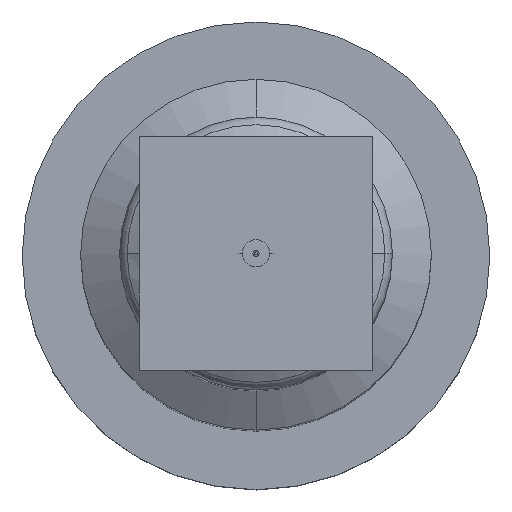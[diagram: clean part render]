
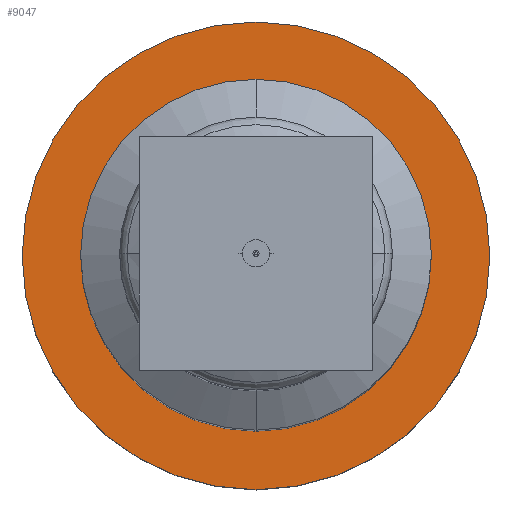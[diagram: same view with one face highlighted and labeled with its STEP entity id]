
A CAD part, top view. The second image highlights one B-rep face of the part: STEP entity #9047.
In plain terms, the highlighted planar face has unit normal (0, 0, 1).
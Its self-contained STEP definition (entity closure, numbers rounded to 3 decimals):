
#391 = DIRECTION ( 'NONE',  ( 0., 0., -1. ) ) ;
#444 = DIRECTION ( 'NONE',  ( 0., 1., 0. ) ) ;
#909 = CARTESIAN_POINT ( 'NONE',  ( 0., 22.5, 35. ) ) ;
#946 = CIRCLE ( 'NONE', #1732, 22.5 ) ;
#952 = FACE_BOUND ( 'NONE', #1189, .T. ) ;
#1189 = EDGE_LOOP ( 'NONE', ( #9592, #12065 ) ) ;
#1372 = FACE_OUTER_BOUND ( 'NONE', #4462, .T. ) ;
#1689 = EDGE_CURVE ( 'NONE', #12061, #3672, #7768, .T. ) ;
#1732 = AXIS2_PLACEMENT_3D ( 'NONE', #13925, #5983, #3143 ) ;
#1782 = DIRECTION ( 'NONE',  ( 0., 0., 1. ) ) ;
#1910 = AXIS2_PLACEMENT_3D ( 'NONE', #8850, #6249, #11389 ) ;
#1992 = DIRECTION ( 'NONE',  ( 0., 0., -1. ) ) ;
#3143 = DIRECTION ( 'NONE',  ( 0., 1., 0. ) ) ;
#3672 = VERTEX_POINT ( 'NONE', #10960 ) ;
#3691 = AXIS2_PLACEMENT_3D ( 'NONE', #8383, #391, #444 ) ;
#4462 = EDGE_LOOP ( 'NONE', ( #9200, #11456 ) ) ;
#5983 = DIRECTION ( 'NONE',  ( 0., 0., -1. ) ) ;
#6020 = EDGE_CURVE ( 'NONE', #10911, #17168, #946, .T. ) ;
#6249 = DIRECTION ( 'NONE',  ( 0., 0., -1. ) ) ;
#7011 = CARTESIAN_POINT ( 'NONE',  ( 0., -22.5, 35. ) ) ;
#7054 = EDGE_CURVE ( 'NONE', #3672, #12061, #16834, .T. ) ;
#7129 = EDGE_CURVE ( 'NONE', #17168, #10911, #11375, .T. ) ;
#7473 = DIRECTION ( 'NONE',  ( 0., 1., 0. ) ) ;
#7768 = CIRCLE ( 'NONE', #1910, 30. ) ;
#8383 = CARTESIAN_POINT ( 'NONE',  ( 0., 0., 35. ) ) ;
#8850 = CARTESIAN_POINT ( 'NONE',  ( 0., 0., 35. ) ) ;
#9047 = ADVANCED_FACE ( 'NONE', ( #952, #1372 ), #10226, .T. ) ;
#9200 = ORIENTED_EDGE ( 'NONE', *, *, #7054, .F. ) ;
#9592 = ORIENTED_EDGE ( 'NONE', *, *, #7129, .T. ) ;
#9878 = CARTESIAN_POINT ( 'NONE',  ( 0., -30., 35. ) ) ;
#9963 = AXIS2_PLACEMENT_3D ( 'NONE', #11289, #1992, #7473 ) ;
#10123 = CARTESIAN_POINT ( 'NONE',  ( 0., 22.5, 35. ) ) ;
#10226 = PLANE ( 'NONE',  #12653 ) ;
#10911 = VERTEX_POINT ( 'NONE', #7011 ) ;
#10960 = CARTESIAN_POINT ( 'NONE',  ( 0., 30., 35. ) ) ;
#11289 = CARTESIAN_POINT ( 'NONE',  ( 0., 0., 35. ) ) ;
#11375 = CIRCLE ( 'NONE', #3691, 22.5 ) ;
#11389 = DIRECTION ( 'NONE',  ( 0., 1., 0. ) ) ;
#11456 = ORIENTED_EDGE ( 'NONE', *, *, #1689, .F. ) ;
#12061 = VERTEX_POINT ( 'NONE', #9878 ) ;
#12065 = ORIENTED_EDGE ( 'NONE', *, *, #6020, .T. ) ;
#12653 = AXIS2_PLACEMENT_3D ( 'NONE', #909, #1782, #16887 ) ;
#13925 = CARTESIAN_POINT ( 'NONE',  ( 0., 0., 35. ) ) ;
#16834 = CIRCLE ( 'NONE', #9963, 30. ) ;
#16887 = DIRECTION ( 'NONE',  ( 0., -1., 0. ) ) ;
#17168 = VERTEX_POINT ( 'NONE', #10123 ) ;
